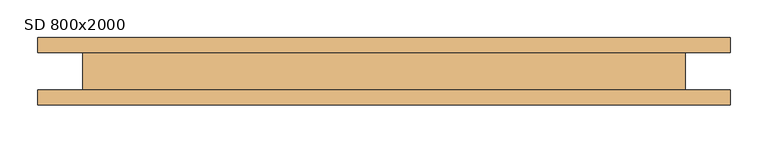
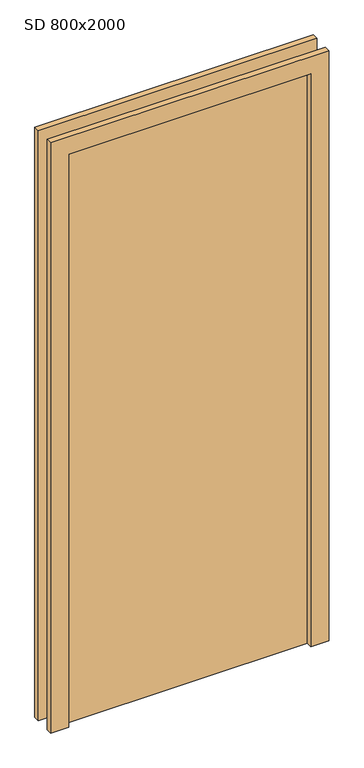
"""IFC4 building model written with IfcOpenShell, lengths in millimetres: door geometry, JednokridlePlne : SD 800x2000."""

from ifc_helpers import new_model, si_unit, frame, origin, origin_with_axes, place, context, project, spatial, polyline, outline, extrude, source, transform, mapped, element, save


def sd_800x2000_3ea96131(model_context):
    return source(origin(), model_context, "Body", "SweptSolid", [
        extrude(outline(polyline([(2060.0, -460.0), (0.0, -460.0), (0.0, -400.0), (2000.0, -400.0), (2000.0, 400.0), (0.0, 400.0), (0.0, 460.0), (2060.0, 460.0), (2060.0, -460.0)])), frame((0.0, 25.0, 0.0), z_axis=(0.0, 1.0, 0.0), x_axis=(0.0, 0.0, 1.0)), (0.0, 0.0, 1.0), 20.0),
        extrude(outline(polyline([(2060.0, 460.0), (2060.0, -460.0), (0.0, -460.0), (0.0, -400.0), (2000.0, -400.0), (2000.0, 400.0), (0.0, 400.0), (0.0, 460.0), (2060.0, 460.0)])), frame((0.0, -45.0, 0.0), z_axis=(0.0, 1.0, 0.0), x_axis=(0.0, 0.0, 1.0)), (0.0, 0.0, 1.0), 20.0),
        extrude(outline(polyline([(400.0, -25.0), (-400.0, -25.0), (-400.0, 25.0), (400.0, 25.0), (400.0, -25.0)])), origin_with_axes(), (0.0, 0.0, 1.0), 2000.0),
    ])


if __name__ == "__main__":
    model = new_model("IFC4")
    model_context = context("Model", 3, world=origin())
    ifc_project = project(units=[si_unit("LENGTHUNIT", "METRE", prefix="MILLI")], contexts=[model_context])
    site = spatial("IfcSite", under=ifc_project)
    building = spatial("IfcBuilding", under=site)
    placement = place(None, origin())
    sd_800x2000_shape = sd_800x2000_3ea96131(model_context)
    element("IfcDoor", 1, ObjectType="JednokridlePlne : SD 800x2000", at=placement, inside=building, context=model_context, shape_type="MappedRepresentation", body=[
        mapped(sd_800x2000_shape, transform((0.0, 0.0, 0.0), x_axis=(1.0, 0.0, 0.0), y_axis=(0.0, 1.0, 0.0), z_axis=(0.0, 0.0, 1.0))),
    ])
    save(model, "model.ifc")
